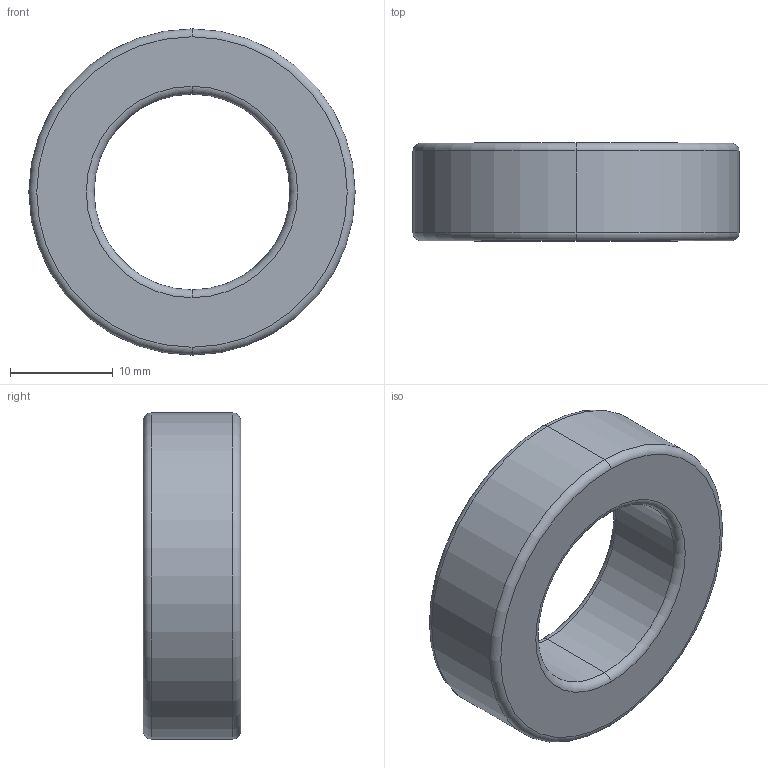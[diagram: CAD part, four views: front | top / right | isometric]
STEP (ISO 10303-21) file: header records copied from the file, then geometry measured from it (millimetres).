
FILE_DESCRIPTION (( 'STEP AP214' ), '1' );
FILE_NAME ('5967001701.STEP', '2018-12-19T18:11:52', ( '' ), ( '' ), 'SwSTEP 2.0', 'SolidWorks 2018', '' );
FILE_SCHEMA (( 'AUTOMOTIVE_DESIGN' ));
Length unit declared in the file: inch
Products named in the file (1): 5967001701
Bounding box: 31.75 x 9.5 x 31.75 mm (x, y, z)
Volume: 4773.7 mm3; surface area: 2425.1 mm2
Topology: 1 solids, 1 shells, 14 faces, 28 edges, 16 vertices
Faces by surface type: torus 8, cylinder 4, plane 2
Entity records: 416 total; most frequent: DIRECTION 82, CARTESIAN_POINT 59, ORIENTED_EDGE 56, AXIS2_PLACEMENT_3D 39, EDGE_CURVE 28, CIRCLE 24, VERTEX_POINT 16, EDGE_LOOP 16
